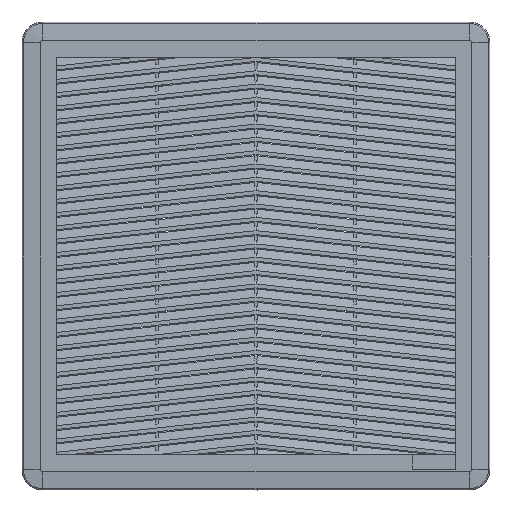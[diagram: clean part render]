
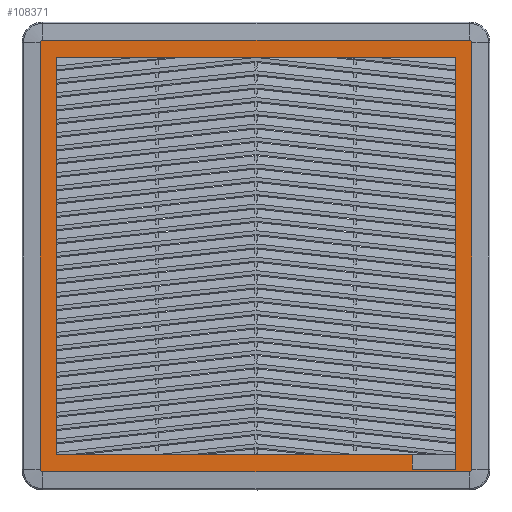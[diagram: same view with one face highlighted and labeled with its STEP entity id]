
A CAD part, front view. The second image highlights one B-rep face of the part: STEP entity #108371.
In plain terms, the highlighted planar face has unit normal (0, -1, 0).
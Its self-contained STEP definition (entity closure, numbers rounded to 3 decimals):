
#93671=CARTESIAN_POINT('',(148.,-34.,
-148.));
#93672=DIRECTION('',(0.,1.,0.));
#93673=DIRECTION('',(1.,0.,0.));
#93674=AXIS2_PLACEMENT_3D('',#93671,#93672,#93673);
#93676=DIRECTION('',(-1.,0.,0.));
#93677=VECTOR('',#93676,296.);
#93678=CARTESIAN_POINT('',(148.,-34.,
-149.794));
#93679=LINE('',#93678,#93677);
#93680=CARTESIAN_POINT('',(-148.,-34.,
-148.));
#93681=DIRECTION('',(0.,1.,0.));
#93682=DIRECTION('',(0.,0.,-1.));
#93683=AXIS2_PLACEMENT_3D('',#93680,#93681,#93682);
#93685=DIRECTION('',(0.,0.,1.));
#93686=VECTOR('',#93685,296.);
#93687=CARTESIAN_POINT('',(-149.794,-34.,
-148.));
#93688=LINE('',#93687,#93686);
#93689=CARTESIAN_POINT('',(-148.,-34.,
148.));
#93690=DIRECTION('',(0.,1.,0.));
#93691=DIRECTION('',(-1.,0.,0.));
#93692=AXIS2_PLACEMENT_3D('',#93689,#93690,#93691);
#93694=DIRECTION('',(1.,0.,0.));
#93695=VECTOR('',#93694,296.);
#93696=CARTESIAN_POINT('',(-148.,-34.,
149.793));
#93697=LINE('',#93696,#93695);
#93698=CARTESIAN_POINT('',(148.,-34.,
148.));
#93699=DIRECTION('',(0.,1.,0.));
#93700=DIRECTION('',(0.,0.,1.));
#93701=AXIS2_PLACEMENT_3D('',#93698,#93699,#93700);
#93711=DIRECTION('',(0.,0.,1.));
#93712=VECTOR('',#93711,296.);
#93713=CARTESIAN_POINT('',(149.794,-34.,
-148.));
#93714=LINE('',#93713,#93712);
#94480=DIRECTION('',(0.,0.,1.));
#94481=VECTOR('',#94480,276.);
#94482=CARTESIAN_POINT('',(-138.5,-34.,
-138.));
#94483=LINE('',#94482,#94481);
#97196=DIRECTION('',(-1.,0.,0.));
#97197=VECTOR('',#97196,247.);
#97198=CARTESIAN_POINT('',(108.5,-34.,
-138.));
#97199=LINE('',#97198,#97197);
#97617=DIRECTION('',(0.,0.,-1.));
#97618=VECTOR('',#97617,286.);
#97619=CARTESIAN_POINT('',(138.5,-34.,
138.));
#97620=LINE('',#97619,#97618);
#98267=DIRECTION('',(1.,0.,0.));
#98268=VECTOR('',#98267,277.);
#98269=CARTESIAN_POINT('',(-138.5,-34.,
138.));
#98270=LINE('',#98269,#98268);
#104323=DIRECTION('',(-1.,0.,0.));
#104324=VECTOR('',#104323,30.);
#104325=CARTESIAN_POINT('',(138.5,-34.,
-148.));
#104326=LINE('',#104325,#104324);
#104347=DIRECTION('',(0.,0.,1.));
#104348=VECTOR('',#104347,10.);
#104349=CARTESIAN_POINT('',(108.5,-34.,
-148.));
#104350=LINE('',#104349,#104348);
#104831=CARTESIAN_POINT('',(-148.,-34.,
-149.794));
#104832=CARTESIAN_POINT('',(-149.794,-34.,
-148.));
#104833=VERTEX_POINT('',#104831);
#104834=VERTEX_POINT('',#104832);
#104839=CARTESIAN_POINT('',(149.794,-34.,
-148.));
#104840=CARTESIAN_POINT('',(148.,-34.,
-149.794));
#104841=VERTEX_POINT('',#104839);
#104842=VERTEX_POINT('',#104840);
#104843=CARTESIAN_POINT('',(-149.794,-34.,
148.));
#104844=VERTEX_POINT('',#104843);
#104845=CARTESIAN_POINT('',(-148.,-34.,
149.793));
#104846=VERTEX_POINT('',#104845);
#104847=CARTESIAN_POINT('',(148.,-34.,
149.793));
#104848=VERTEX_POINT('',#104847);
#104849=CARTESIAN_POINT('',(149.794,-34.,
148.));
#104850=VERTEX_POINT('',#104849);
#104851=CARTESIAN_POINT('',(108.5,-34.,
-148.));
#104852=CARTESIAN_POINT('',(108.5,-34.,
-138.));
#104853=VERTEX_POINT('',#104851);
#104854=VERTEX_POINT('',#104852);
#104855=CARTESIAN_POINT('',(138.5,-34.,
-148.));
#104856=VERTEX_POINT('',#104855);
#104857=CARTESIAN_POINT('',(138.5,-34.,
138.));
#104858=VERTEX_POINT('',#104857);
#104859=CARTESIAN_POINT('',(-138.5,-34.,
138.));
#104860=VERTEX_POINT('',#104859);
#104861=CARTESIAN_POINT('',(-138.5,-34.,
-138.));
#104862=VERTEX_POINT('',#104861);
#108335=CARTESIAN_POINT('',(-149.794,-34.,
-149.794));
#108336=DIRECTION('',(0.,-1.,0.));
#108337=DIRECTION('',(1.,0.,0.));
#108338=AXIS2_PLACEMENT_3D('',#108335,#108336,#108337);
#108339=PLANE('',#108338);
#108341=ORIENTED_EDGE('',*,*,#108340,.T.);
#108343=ORIENTED_EDGE('',*,*,#108342,.T.);
#108344=ORIENTED_EDGE('',*,*,#108324,.T.);
#108346=ORIENTED_EDGE('',*,*,#108345,.T.);
#108348=ORIENTED_EDGE('',*,*,#108347,.T.);
#108350=ORIENTED_EDGE('',*,*,#108349,.T.);
#108352=ORIENTED_EDGE('',*,*,#108351,.T.);
#108354=ORIENTED_EDGE('',*,*,#108353,.F.);
#108355=EDGE_LOOP('',(#108341,#108343,#108344,#108346,#108348,#108350,#108352,
#108354));
#108356=FACE_OUTER_BOUND('',#108355,.F.);
#108358=ORIENTED_EDGE('',*,*,#108357,.F.);
#108360=ORIENTED_EDGE('',*,*,#108359,.F.);
#108362=ORIENTED_EDGE('',*,*,#108361,.F.);
#108364=ORIENTED_EDGE('',*,*,#108363,.F.);
#108366=ORIENTED_EDGE('',*,*,#108365,.F.);
#108368=ORIENTED_EDGE('',*,*,#108367,.F.);
#108369=EDGE_LOOP('',(#108358,#108360,#108362,#108364,#108366,#108368));
#108370=FACE_BOUND('',#108369,.F.);
#93675=CIRCLE('',#93674,1.794);
#93684=CIRCLE('',#93683,1.794);
#93693=CIRCLE('',#93692,1.794);
#93702=CIRCLE('',#93701,1.794);
#108324=EDGE_CURVE('',#104833,#104834,#93684,.T.);
#108340=EDGE_CURVE('',#104841,#104842,#93675,.T.);
#108342=EDGE_CURVE('',#104842,#104833,#93679,.T.);
#108345=EDGE_CURVE('',#104834,#104844,#93688,.T.);
#108347=EDGE_CURVE('',#104844,#104846,#93693,.T.);
#108349=EDGE_CURVE('',#104846,#104848,#93697,.T.);
#108351=EDGE_CURVE('',#104848,#104850,#93702,.T.);
#108353=EDGE_CURVE('',#104841,#104850,#93714,.T.);
#108357=EDGE_CURVE('',#104853,#104854,#104350,.T.);
#108359=EDGE_CURVE('',#104856,#104853,#104326,.T.);
#108361=EDGE_CURVE('',#104858,#104856,#97620,.T.);
#108363=EDGE_CURVE('',#104860,#104858,#98270,.T.);
#108365=EDGE_CURVE('',#104862,#104860,#94483,.T.);
#108367=EDGE_CURVE('',#104854,#104862,#97199,.T.);
#108371=ADVANCED_FACE('',(#108356,#108370),#108339,.T.);
